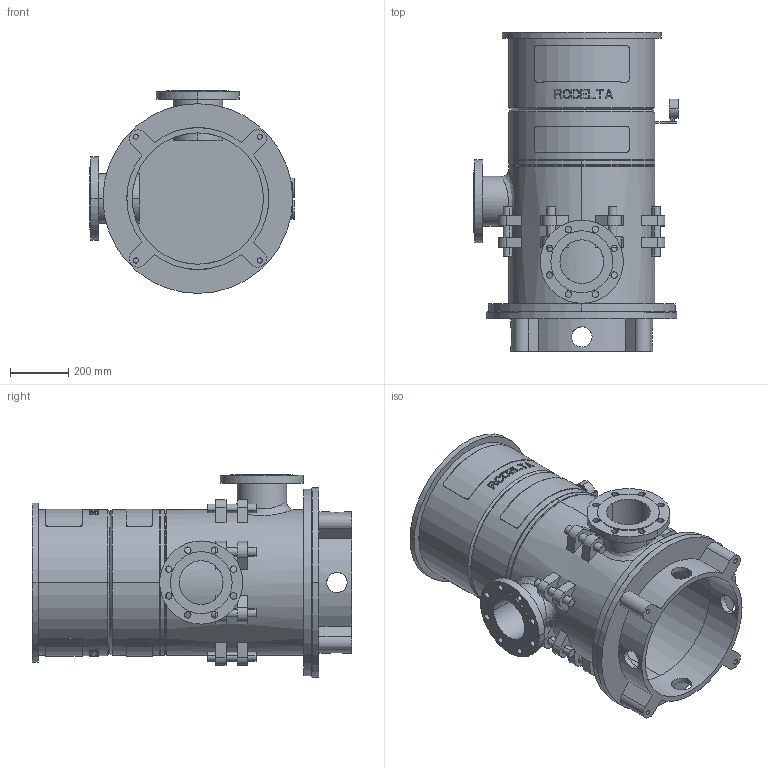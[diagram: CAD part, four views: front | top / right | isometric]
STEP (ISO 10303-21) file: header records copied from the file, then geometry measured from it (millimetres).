
FILE_DESCRIPTION((''),'2;1');
FILE_NAME('LS6_1TR_0GR_ABOVE_30KW','2023-08-11T',('Lyritlocal'),(''),'PRO/ENGINEER BY PARAMETRIC TECHNOLOGY CORPORATION, 2016360','PRO/ENGINEER BY PARAMETRIC TECHNOLOGY CORPORATION, 2016360','');
FILE_SCHEMA(('CONFIG_CONTROL_DESIGN'));
Length unit declared in the file: millimetre
Products named in the file (1): LS6_1TR_0GR_ABOVE_30KW
Bounding box: 700 x 1093 x 695 mm (x, y, z)
Volume: 40978901.7 mm3; surface area: 5286698.5 mm2
Topology: 3 solids, 7 shells, 684 faces, 1769 edges, 1174 vertices
Faces by surface type: plane 422, cylinder 242, cone 12, bspline 8
Entity records: 22610 total; most frequent: CARTESIAN_POINT 5990, ORIENTED_EDGE 3522, DIRECTION 3275, EDGE_CURVE 1769, AXIS2_PLACEMENT_3D 1237, VERTEX_POINT 1174, EDGE_LOOP 827, VECTOR 801
